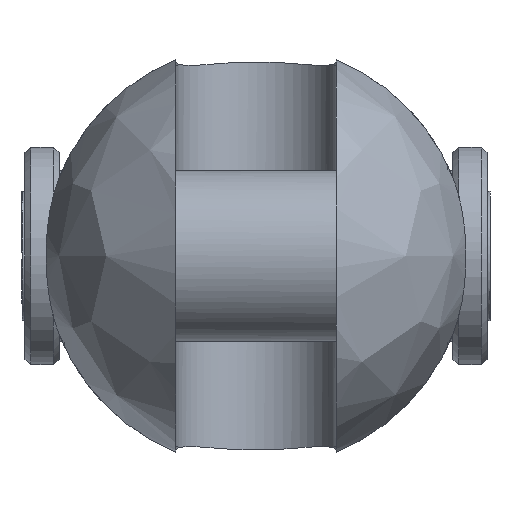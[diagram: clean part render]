
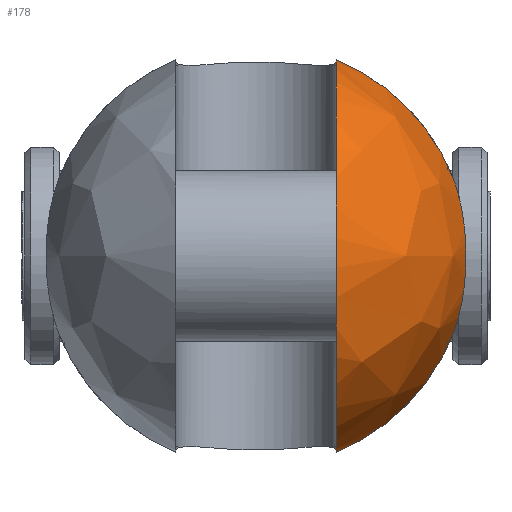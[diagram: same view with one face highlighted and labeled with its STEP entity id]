
A CAD part, left-side view. The second image highlights one B-rep face of the part: STEP entity #178.
In plain terms, the highlighted free-form (B-spline) face has degree [2, 2] with [9, 5] control points.
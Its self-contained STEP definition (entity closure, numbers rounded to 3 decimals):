
#178=ADVANCED_FACE('',(#318),#2404,.T.);
#318=FACE_OUTER_BOUND('',#478,.T.);
#478=EDGE_LOOP('',(#1187,#1188,#1189,#1190));
#1187=ORIENTED_EDGE('',*,*,#1570,.T.);
#1188=ORIENTED_EDGE('',*,*,#1592,.F.);
#1189=ORIENTED_EDGE('',*,*,#1610,.T.);
#1190=ORIENTED_EDGE('',*,*,#1586,.F.);
#1570=EDGE_CURVE('',#2237,#2236,#1972,.T.);
#1586=EDGE_CURVE('',#2237,#2249,#1982,.T.);
#1592=EDGE_CURVE('',#2256,#2236,#1983,.T.);
#1610=EDGE_CURVE('',#2256,#2249,#1778,.T.);
#1778=B_SPLINE_CURVE_WITH_KNOTS('',3,(#6065,#6066,#6067,#6068,#6069,#6070,
#6071,#6072,#6073,#6074,#6075,#6076,#6077,#6078),.UNSPECIFIED.,.F.,.F.,
(4,2,2,2,2,2,4),(-15.072,-13.761,-10.649,
-7.536,-4.423,-1.311,0.),.UNSPECIFIED.);
#1972=(
BOUNDED_CURVE()
B_SPLINE_CURVE(2,(#5882,#5883,#5884,#5885,#5886),.UNSPECIFIED.,.F.,.F.)
B_SPLINE_CURVE_WITH_KNOTS((3,2,3),(-53.798,-26.899,
0.),.UNSPECIFIED.)
CURVE()
GEOMETRIC_REPRESENTATION_ITEM()
RATIONAL_B_SPLINE_CURVE((1.,0.707,1.,0.707,1.))
REPRESENTATION_ITEM('')
);
#1982=(
BOUNDED_CURVE()
B_SPLINE_CURVE(2,(#5960,#5961,#5962),.UNSPECIFIED.,.F.,.F.)
B_SPLINE_CURVE_WITH_KNOTS((3,3),(0.,14.917),.UNSPECIFIED.)
CURVE()
GEOMETRIC_REPRESENTATION_ITEM()
RATIONAL_B_SPLINE_CURVE((1.,0.92,1.))
REPRESENTATION_ITEM('')
);
#1983=(
BOUNDED_CURVE()
B_SPLINE_CURVE(2,(#5985,#5986,#5987),.UNSPECIFIED.,.F.,.F.)
B_SPLINE_CURVE_WITH_KNOTS((3,3),(0.,14.917),.UNSPECIFIED.)
CURVE()
GEOMETRIC_REPRESENTATION_ITEM()
RATIONAL_B_SPLINE_CURVE((1.,0.92,1.))
REPRESENTATION_ITEM('')
);
#2236=VERTEX_POINT('',#5750);
#2237=VERTEX_POINT('',#5751);
#2249=VERTEX_POINT('',#5763);
#2256=VERTEX_POINT('',#5770);
#2404=(
BOUNDED_SURFACE()
B_SPLINE_SURFACE(2,2,((#5464,#5465,#5466,#5467,#5468),(#5469,#5470,#5471,
#5472,#5473),(#5474,#5475,#5476,#5477,#5478),(#5479,#5480,#5481,#5482,#5483),
(#5484,#5485,#5486,#5487,#5488),(#5489,#5490,#5491,#5492,#5493),(#5494,
#5495,#5496,#5497,#5498),(#5499,#5500,#5501,#5502,#5503),(#5504,#5505,#5506,
#5507,#5508)),.UNSPECIFIED.,.T.,.F.,.F.)
B_SPLINE_SURFACE_WITH_KNOTS((3,2,2,2,3),(3,2,3),(0.,1.571,3.142,
4.712,6.283),(-1.571,0.,1.571),
 .UNSPECIFIED.)
GEOMETRIC_REPRESENTATION_ITEM()
RATIONAL_B_SPLINE_SURFACE(((1.,0.707,1.,0.707,1.),
(0.707,0.5,0.707,0.5,0.707),(1.,0.707,
1.,0.707,1.),(0.707,0.5,0.707,0.5,0.707),
(1.,0.707,1.,0.707,1.),(0.707,0.5,0.707,
0.5,0.707),(1.,0.707,1.,0.707,1.),(0.707,
0.5,0.707,0.5,0.707),(1.,0.707,1.,0.707,
1.)))
REPRESENTATION_ITEM('')
SURFACE()
);
#5464=CARTESIAN_POINT('',(-26.5,0.,0.));
#5465=CARTESIAN_POINT('',(-26.5,18.5,0.));
#5466=CARTESIAN_POINT('',(-8.,18.5,0.));
#5467=CARTESIAN_POINT('',(10.5,18.5,0.));
#5468=CARTESIAN_POINT('',(10.5,0.,0.));
#5469=CARTESIAN_POINT('',(-26.5,0.,0.));
#5470=CARTESIAN_POINT('',(-26.5,18.5,18.5));
#5471=CARTESIAN_POINT('',(-8.,18.5,18.5));
#5472=CARTESIAN_POINT('',(10.5,18.5,18.5));
#5473=CARTESIAN_POINT('',(10.5,0.,0.));
#5474=CARTESIAN_POINT('',(-26.5,0.,0.));
#5475=CARTESIAN_POINT('',(-26.5,0.,18.5));
#5476=CARTESIAN_POINT('',(-8.,0.,18.5));
#5477=CARTESIAN_POINT('',(10.5,0.,18.5));
#5478=CARTESIAN_POINT('',(10.5,0.,0.));
#5479=CARTESIAN_POINT('',(-26.5,0.,0.));
#5480=CARTESIAN_POINT('',(-26.5,-18.5,18.5));
#5481=CARTESIAN_POINT('',(-8.,-18.5,18.5));
#5482=CARTESIAN_POINT('',(10.5,-18.5,18.5));
#5483=CARTESIAN_POINT('',(10.5,0.,0.));
#5484=CARTESIAN_POINT('',(-26.5,0.,0.));
#5485=CARTESIAN_POINT('',(-26.5,-18.5,0.));
#5486=CARTESIAN_POINT('',(-8.,-18.5,0.));
#5487=CARTESIAN_POINT('',(10.5,-18.5,0.));
#5488=CARTESIAN_POINT('',(10.5,0.,0.));
#5489=CARTESIAN_POINT('',(-26.5,0.,0.));
#5490=CARTESIAN_POINT('',(-26.5,-18.5,-18.5));
#5491=CARTESIAN_POINT('',(-8.,-18.5,-18.5));
#5492=CARTESIAN_POINT('',(10.5,-18.5,-18.5));
#5493=CARTESIAN_POINT('',(10.5,0.,0.));
#5494=CARTESIAN_POINT('',(-26.5,0.,0.));
#5495=CARTESIAN_POINT('',(-26.5,0.,-18.5));
#5496=CARTESIAN_POINT('',(-8.,0.,-18.5));
#5497=CARTESIAN_POINT('',(10.5,0.,-18.5));
#5498=CARTESIAN_POINT('',(10.5,0.,0.));
#5499=CARTESIAN_POINT('',(-26.5,0.,0.));
#5500=CARTESIAN_POINT('',(-26.5,18.5,-18.5));
#5501=CARTESIAN_POINT('',(-8.,18.5,-18.5));
#5502=CARTESIAN_POINT('',(10.5,18.5,-18.5));
#5503=CARTESIAN_POINT('',(10.5,0.,0.));
#5504=CARTESIAN_POINT('',(-26.5,0.,0.));
#5505=CARTESIAN_POINT('',(-26.5,18.5,0.));
#5506=CARTESIAN_POINT('',(-8.,18.5,0.));
#5507=CARTESIAN_POINT('',(10.5,18.5,0.));
#5508=CARTESIAN_POINT('',(10.5,0.,0.));
#5750=CARTESIAN_POINT('',(-8.,-7.,-17.125));
#5751=CARTESIAN_POINT('',(-8.,-7.,17.125));
#5763=CARTESIAN_POINT('',(-8.,-17.205,6.801));
#5770=CARTESIAN_POINT('',(-8.,-17.205,-6.801));
#5882=CARTESIAN_POINT('',(-8.,-7.,17.125));
#5883=CARTESIAN_POINT('',(-25.125,-7.,17.125));
#5884=CARTESIAN_POINT('',(-25.125,-7.,0.));
#5885=CARTESIAN_POINT('',(-25.125,-7.,-17.125));
#5886=CARTESIAN_POINT('',(-8.,-7.,-17.125));
#5960=CARTESIAN_POINT('',(-8.,-7.,17.125));
#5961=CARTESIAN_POINT('',(-8.,-14.304,14.139));
#5962=CARTESIAN_POINT('',(-8.,-17.205,6.801));
#5985=CARTESIAN_POINT('',(-8.,-17.205,-6.801));
#5986=CARTESIAN_POINT('',(-8.,-14.304,-14.139));
#5987=CARTESIAN_POINT('',(-8.,-7.,-17.125));
#6065=CARTESIAN_POINT('',(-8.,-17.205,-6.801));
#6066=CARTESIAN_POINT('',(-8.27,-17.33,-6.483));
#6067=CARTESIAN_POINT('',(-8.519,-17.444,-6.152));
#6068=CARTESIAN_POINT('',(-9.272,-17.788,-5.019));
#6069=CARTESIAN_POINT('',(-9.737,-17.995,-4.068));
#6070=CARTESIAN_POINT('',(-10.351,-18.266,-2.052));
#6071=CARTESIAN_POINT('',(-10.5,-18.33,-0.988));
#6072=CARTESIAN_POINT('',(-10.5,-18.33,0.988));
#6073=CARTESIAN_POINT('',(-10.351,-18.266,2.052));
#6074=CARTESIAN_POINT('',(-9.737,-17.995,4.068));
#6075=CARTESIAN_POINT('',(-9.272,-17.788,5.019));
#6076=CARTESIAN_POINT('',(-8.519,-17.444,6.152));
#6077=CARTESIAN_POINT('',(-8.27,-17.33,6.483));
#6078=CARTESIAN_POINT('',(-8.,-17.205,6.801));
